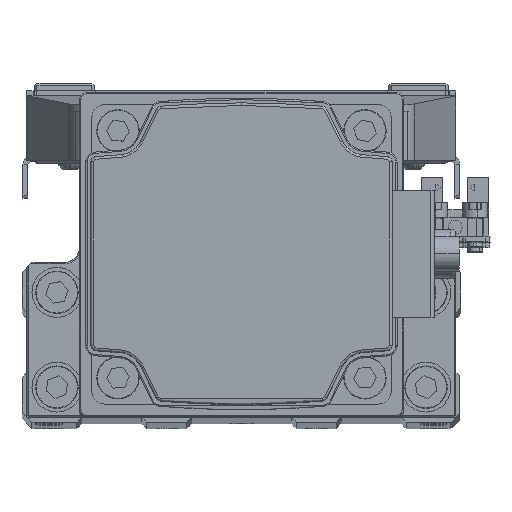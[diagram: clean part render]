
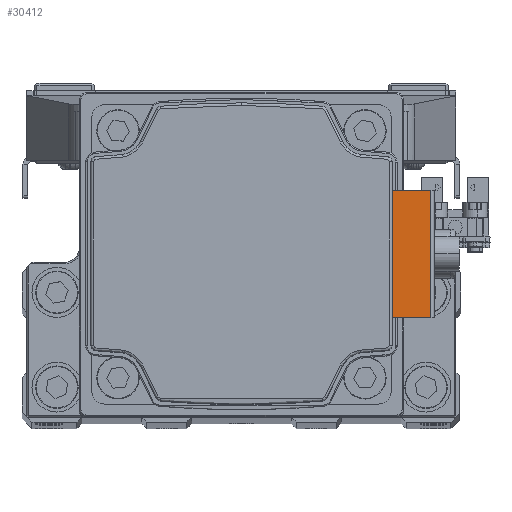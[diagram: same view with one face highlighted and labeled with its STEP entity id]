
A CAD part, top view. The second image highlights one B-rep face of the part: STEP entity #30412.
In plain terms, the highlighted planar face has unit normal (0, 0, 1) as drawn and (0, 0, -1) by its records, which use the part's own axes.
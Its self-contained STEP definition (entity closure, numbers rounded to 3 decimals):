
#132 = ORIENTED_EDGE ( 'NONE', *, *, #17726, .T. ) ;
#203 = DIRECTION ( 'NONE',  ( 1., 0., 0. ) ) ;
#1824 = VERTEX_POINT ( 'NONE', #29534 ) ;
#2432 = CARTESIAN_POINT ( 'NONE',  ( -12.75, 37.9, -88.696 ) ) ;
#3252 = EDGE_CURVE ( 'NONE', #1824, #25652, #42201, .T. ) ;
#4626 = LINE ( 'NONE', #19389, #14348 ) ;
#9044 = CARTESIAN_POINT ( 'NONE',  ( 18.438, 30.2, -88.696 ) ) ;
#9356 = DIRECTION ( 'NONE',  ( 0., 1., 0. ) ) ;
#11655 = CARTESIAN_POINT ( 'NONE',  ( 12.75, 30.2, -88.696 ) ) ;
#11942 = EDGE_LOOP ( 'NONE', ( #38163, #132, #32770, #29493 ) ) ;
#13243 = CARTESIAN_POINT ( 'NONE',  ( 0., 37.9, -88.696 ) ) ;
#14348 = VECTOR ( 'NONE', #34135, 1000. ) ;
#14765 = VECTOR ( 'NONE', #203, 1000. ) ;
#17726 = EDGE_CURVE ( 'NONE', #22882, #21502, #18630, .T. ) ;
#18630 = LINE ( 'NONE', #33369, #14765 ) ;
#19389 = CARTESIAN_POINT ( 'NONE',  ( 12.75, 33.991, -88.696 ) ) ;
#21127 = AXIS2_PLACEMENT_3D ( 'NONE', #13243, #27999, #42754 ) ;
#21502 = VERTEX_POINT ( 'NONE', #34866 ) ;
#22882 = VERTEX_POINT ( 'NONE', #2432 ) ;
#23810 = DIRECTION ( 'NONE',  ( 1., 0., 0. ) ) ;
#25652 = VERTEX_POINT ( 'NONE', #11655 ) ;
#27751 = LINE ( 'NONE', #42511, #31481 ) ;
#27999 = DIRECTION ( 'NONE',  ( 0., 0., -1. ) ) ;
#29220 = VECTOR ( 'NONE', #23810, 1000. ) ;
#29493 = ORIENTED_EDGE ( 'NONE', *, *, #3252, .F. ) ;
#29534 = CARTESIAN_POINT ( 'NONE',  ( -12.75, 30.2, -88.696 ) ) ;
#30412 = ADVANCED_FACE ( 'NONE', ( #31635 ), #46399, .T. ) ;
#31481 = VECTOR ( 'NONE', #9356, 1000. ) ;
#31635 = FACE_OUTER_BOUND ( 'NONE', #11942, .T. ) ;
#32770 = ORIENTED_EDGE ( 'NONE', *, *, #42986, .F. ) ;
#33369 = CARTESIAN_POINT ( 'NONE',  ( 0., 37.9, -88.696 ) ) ;
#34135 = DIRECTION ( 'NONE',  ( 0., 1., 0. ) ) ;
#34866 = CARTESIAN_POINT ( 'NONE',  ( 12.75, 37.9, -88.696 ) ) ;
#38163 = ORIENTED_EDGE ( 'NONE', *, *, #46269, .T. ) ;
#42201 = LINE ( 'NONE', #9044, #29220 ) ;
#42511 = CARTESIAN_POINT ( 'NONE',  ( -12.75, 37.9, -88.696 ) ) ;
#42754 = DIRECTION ( 'NONE',  ( -1., 0., 0. ) ) ;
#42986 = EDGE_CURVE ( 'NONE', #25652, #21502, #4626, .T. ) ;
#46269 = EDGE_CURVE ( 'NONE', #1824, #22882, #27751, .T. ) ;
#46399 = PLANE ( 'NONE',  #21127 ) ;
